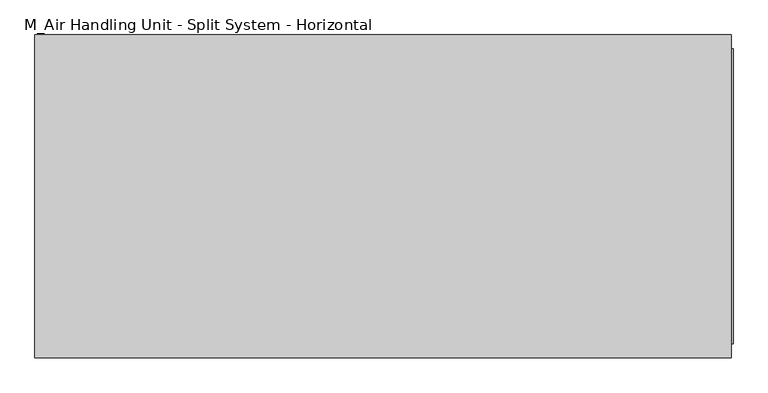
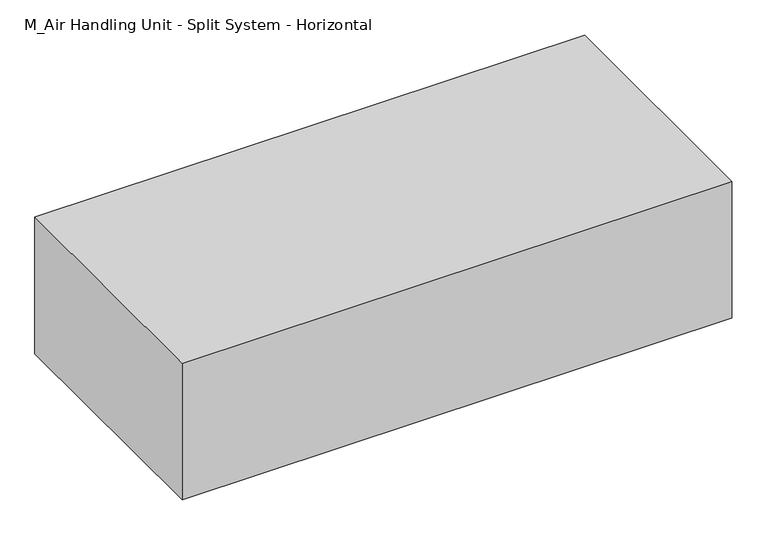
"""IFC4 building model written with IfcOpenShell, lengths in millimetres: proxy geometry, M_Air Handling Unit - Split System - Horizontal : 63300000 J."""

from ifc_helpers import new_model, si_unit, frame, origin, origin_with_axes, place, context, project, spatial, polyline, outline, extrude, source, transform, mapped, element, save


def m_air_handling_unit_split_system_horizontal_300fd20e(model_context):
    return source(origin(), model_context, "Body", "SweptSolid", [
        extrude(outline(polyline([(6846.0, 137.5), (6846.0, 3037.5), (6861.875, 3037.5), (6861.875, 137.5), (6846.0, 137.5)])), frame((0.0, 0.0, 150.0), z_axis=(0.0, 0.0, 1.0), x_axis=(1.0, 0.0, 0.0)), (0.0, 0.0, 1.0), 1500.0),
        extrude(outline(polyline([(6846.0, 3175.0), (6846.0, 0.0), (0.0, 0.0), (0.0, 3175.0), (6846.0, 3175.0)])), origin_with_axes(), (0.0, 0.0, 1.0), 1800.0),
    ])


if __name__ == "__main__":
    model = new_model("IFC4")
    model_context = context("Model", 3, world=origin())
    ifc_project = project(units=[si_unit("LENGTHUNIT", "METRE", prefix="MILLI")], contexts=[model_context])
    site = spatial("IfcSite", under=ifc_project)
    building = spatial("IfcBuilding", under=site)
    placement = place(None, origin())
    m_air_handling_unit_split_system_horizontal_shape = m_air_handling_unit_split_system_horizontal_300fd20e(model_context)
    element("IfcBuildingElementProxy", 1, Name="M_Air Handling Unit - Split System - Horizontal : 63300000 J", ObjectType="M_Air Handling Unit - Split System - Horizontal : 63300000 J", at=placement, inside=building, context=model_context, shape_type="MappedRepresentation", body=[
        mapped(m_air_handling_unit_split_system_horizontal_shape, transform((0.0, 0.0, 0.0), x_axis=(1.0, 0.0, 0.0), y_axis=(0.0, 1.0, 0.0), z_axis=(0.0, 0.0, 1.0))),
    ])
    save(model, "model.ifc")
